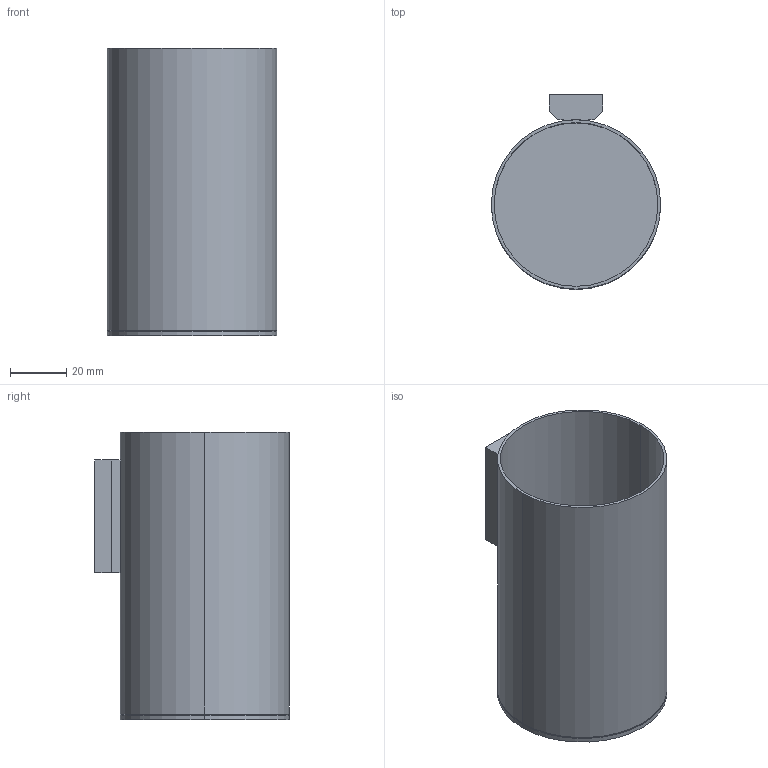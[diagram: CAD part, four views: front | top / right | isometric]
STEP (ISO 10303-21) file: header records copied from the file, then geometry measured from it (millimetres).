
FILE_DESCRIPTION((''),'2;1');
FILE_NAME('A750000175','2024-07-11T11:17:46',('carloff'),(''),'CREO PARAMETRIC BY PTC INC, 2022014','CREO PARAMETRIC BY PTC INC, 2022014','');
FILE_SCHEMA(('CONFIG_CONTROL_DESIGN'));
Length unit declared in the file: millimetre
Products named in the file (1): A750000175
Bounding box: 60 x 69 x 101.8 mm (x, y, z)
Volume: 56562.8 mm3; surface area: 43017.1 mm2
Topology: 1 solids, 1 shells, 24 faces, 55 edges, 35 vertices
Faces by surface type: plane 14, cylinder 6, torus 4
Entity records: 722 total; most frequent: CARTESIAN_POINT 124, DIRECTION 120, ORIENTED_EDGE 110, EDGE_CURVE 55, AXIS2_PLACEMENT_3D 43, VERTEX_POINT 35, VECTOR 34, LINE 34
